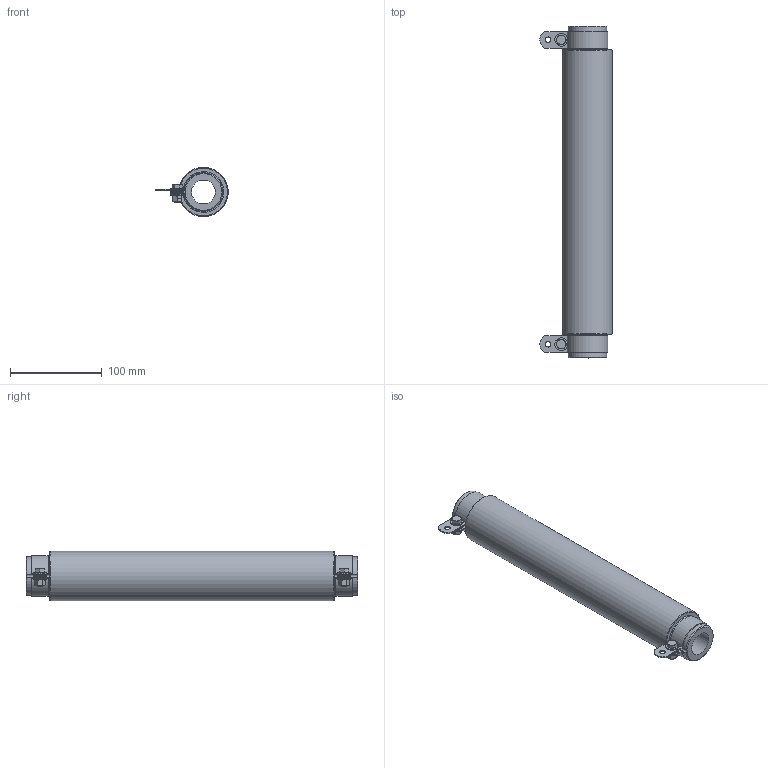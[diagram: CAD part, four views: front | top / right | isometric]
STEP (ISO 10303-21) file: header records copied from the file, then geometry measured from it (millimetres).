
FILE_DESCRIPTION(/* description */ (' '),/* implementation_level */ '2;1');
FILE_NAME(/* name */ 'C52TN',/* time_stamp */ '2017-12-06T13:23:44+01:00',/* author */ ('VISHAY MCB INDUSTRIE'),/* organization */ (' '),/* preprocessor_version */ 'ST-DEVELOPER v16.7',/* originating_system */ 'DEX',/* authorisation */ $);
FILE_SCHEMA (('AUTOMOTIVE_DESIGN {1 0 10303 214 3 1 1}'));
Length unit declared in the file: millimetre
Products named in the file (8): 476; Ecrou HM6 fendu; Rondelle plate M6; 745562; 128057 en place 3 Rondelles; Rondelle plate _Vis HM6x16; Vis HM 6x16; 476 émail
Assembly tree (18 placements, depth 3):
  476
    Ecrou HM6 fendu  x2
    Rondelle plate M6  x8
    745562
    128057 en place 3 Rondelles  x2
    Rondelle plate _Vis HM6x16  x2
      Rondelle plate M6
      Vis HM 6x16
    476 émail
Bounding box: 78.96 x 362 x 54 mm (x, y, z)
Volume: 600603 mm3; surface area: 212094.1 mm2
Topology: 18 solids, 18 shells, 186 faces, 418 edges, 268 vertices
Faces by surface type: plane 86, cylinder 56, cone 40, torus 4
Full cylindrical faces by diameter (mm): 5 x2, 6 x12, 6.1 x6, 14 x10, 26 x1, 52 x2, 54 x1
Entity records: 3033 total; most frequent: CARTESIAN_POINT 551, DIRECTION 427, ORIENTED_EDGE 368, EDGE_CURVE 184, AXIS2_PLACEMENT_3D 181, VERTEX_POINT 125, EDGE_LOOP 119, FACE_BOUND 119
